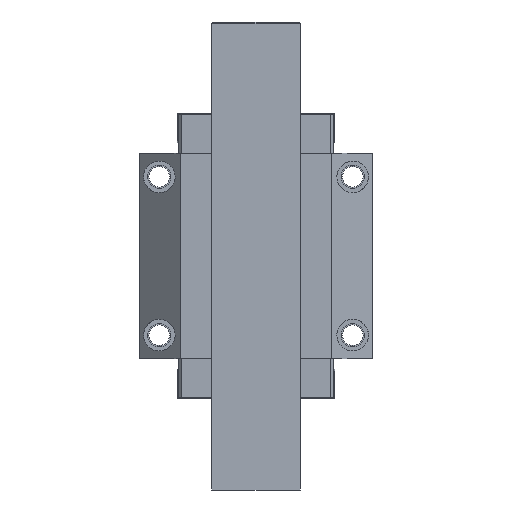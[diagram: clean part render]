
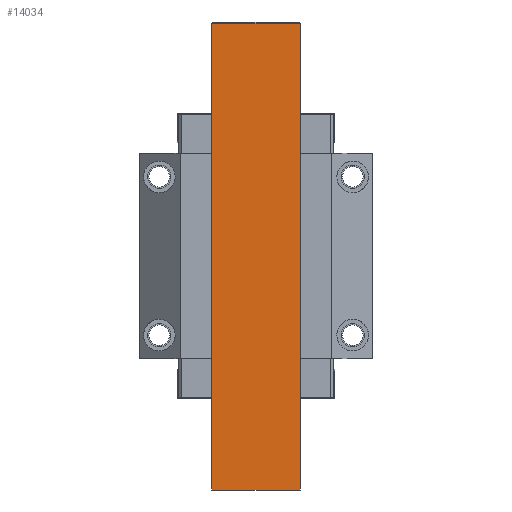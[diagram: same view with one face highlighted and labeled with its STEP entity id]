
A CAD part, front view. The second image highlights one B-rep face of the part: STEP entity #14034.
In plain terms, the highlighted planar face has unit normal (0, -1, 0).
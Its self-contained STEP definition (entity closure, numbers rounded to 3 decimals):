
#13371=DIRECTION('',(1.,0.,0.));
#13372=VECTOR('',#13371,53.);
#13373=CARTESIAN_POINT('',(-26.5,-29.25,-140.325));
#13374=LINE('',#13373,#13372);
#13495=DIRECTION('',(0.,0.,1.));
#13496=VECTOR('',#13495,279.784);
#13497=CARTESIAN_POINT('',(26.5,-29.25,-140.325));
#13498=LINE('',#13497,#13496);
#13499=DIRECTION('',(1.,0.,0.));
#13500=VECTOR('',#13499,53.);
#13501=CARTESIAN_POINT('',(-26.5,-29.25,139.459));
#13502=LINE('',#13501,#13500);
#13503=DIRECTION('',(0.,0.,1.));
#13504=VECTOR('',#13503,279.784);
#13505=CARTESIAN_POINT('',(-26.5,-29.25,-140.325));
#13506=LINE('',#13505,#13504);
#13687=CARTESIAN_POINT('',(26.5,-29.25,139.459));
#13689=VERTEX_POINT('',#13687);
#13691=CARTESIAN_POINT('',(-26.5,-29.25,139.459));
#13693=VERTEX_POINT('',#13691);
#13735=CARTESIAN_POINT('',(-26.5,-29.25,-140.325));
#13736=VERTEX_POINT('',#13735);
#13737=CARTESIAN_POINT('',(26.5,-29.25,-140.325));
#13738=VERTEX_POINT('',#13737);
#14021=CARTESIAN_POINT('',(-26.5,-29.25,-140.325));
#14022=DIRECTION('',(0.,-1.,0.));
#14023=DIRECTION('',(1.,0.,0.));
#14024=AXIS2_PLACEMENT_3D('',#14021,#14022,#14023);
#14025=PLANE('',#14024);
#14027=ORIENTED_EDGE('',*,*,#14026,.T.);
#14028=ORIENTED_EDGE('',*,*,#14016,.F.);
#14029=ORIENTED_EDGE('',*,*,#13776,.F.);
#14031=ORIENTED_EDGE('',*,*,#14030,.T.);
#14032=EDGE_LOOP('',(#14027,#14028,#14029,#14031));
#14033=FACE_OUTER_BOUND('',#14032,.F.);
#13776=EDGE_CURVE('',#13736,#13738,#13374,.T.);
#14016=EDGE_CURVE('',#13738,#13689,#13498,.T.);
#14026=EDGE_CURVE('',#13693,#13689,#13502,.T.);
#14030=EDGE_CURVE('',#13736,#13693,#13506,.T.);
#14034=ADVANCED_FACE('',(#14033),#14025,.T.);
